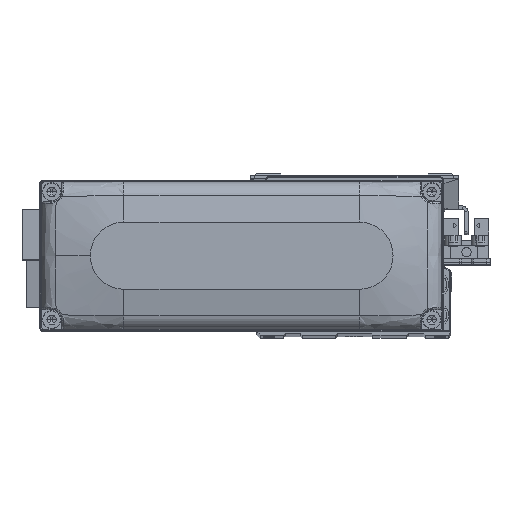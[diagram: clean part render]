
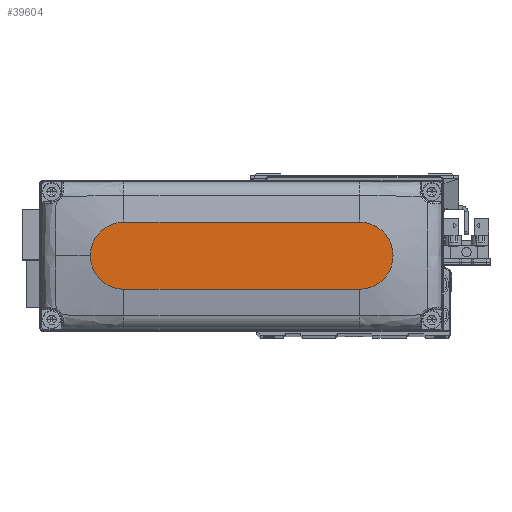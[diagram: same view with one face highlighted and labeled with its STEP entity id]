
A CAD part, top view. The second image highlights one B-rep face of the part: STEP entity #39604.
In plain terms, the highlighted planar face has unit normal (0, 0, 1).
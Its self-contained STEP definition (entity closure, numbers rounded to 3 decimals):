
#1102 = FACE_OUTER_BOUND ( 'NONE', #15856, .T. ) ;
#1172 = AXIS2_PLACEMENT_3D ( 'NONE', #37934, #8295, #21506 ) ;
#3620 = ORIENTED_EDGE ( 'NONE', *, *, #18159, .T. ) ;
#4810 = DIRECTION ( 'NONE',  ( 1., 0., 0. ) ) ;
#4899 = VECTOR ( 'NONE', #26131, 1000. ) ;
#6180 = EDGE_CURVE ( 'NONE', #38924, #40468, #42561, .T. ) ;
#7600 = VECTOR ( 'NONE', #36663, 1000. ) ;
#8295 = DIRECTION ( 'NONE',  ( 0., 0., 1. ) ) ;
#9792 = EDGE_CURVE ( 'NONE', #40468, #32123, #13414, .T. ) ;
#10236 = LINE ( 'NONE', #23462, #7600 ) ;
#11056 = DIRECTION ( 'NONE',  ( 1., 0., 0. ) ) ;
#11259 = ORIENTED_EDGE ( 'NONE', *, *, #40499, .T. ) ;
#12924 = CARTESIAN_POINT ( 'NONE',  ( -35., 10., 28. ) ) ;
#13414 = CIRCLE ( 'NONE', #37594, 10. ) ;
#14315 = PLANE ( 'NONE',  #36367 ) ;
#14987 = CARTESIAN_POINT ( 'NONE',  ( -35., 0., 28. ) ) ;
#15856 = EDGE_LOOP ( 'NONE', ( #16446, #38443, #3620, #16727, #11259 ) ) ;
#16446 = ORIENTED_EDGE ( 'NONE', *, *, #6180, .T. ) ;
#16727 = ORIENTED_EDGE ( 'NONE', *, *, #18344, .T. ) ;
#18003 = AXIS2_PLACEMENT_3D ( 'NONE', #21274, #34483, #4810 ) ;
#18159 = EDGE_CURVE ( 'NONE', #32123, #22278, #10236, .T. ) ;
#18344 = EDGE_CURVE ( 'NONE', #22278, #32803, #31137, .T. ) ;
#19847 = CIRCLE ( 'NONE', #1172, 10. ) ;
#21274 = CARTESIAN_POINT ( 'NONE',  ( 35., 0., 28. ) ) ;
#21506 = DIRECTION ( 'NONE',  ( 1., 0., 0. ) ) ;
#22278 = VERTEX_POINT ( 'NONE', #26707 ) ;
#23462 = CARTESIAN_POINT ( 'NONE',  ( -35., -10., 28. ) ) ;
#24270 = CARTESIAN_POINT ( 'NONE',  ( -35., -10., 28. ) ) ;
#26131 = DIRECTION ( 'NONE',  ( -1., 0., 0. ) ) ;
#26707 = CARTESIAN_POINT ( 'NONE',  ( 35., -10., 28. ) ) ;
#27516 = CARTESIAN_POINT ( 'NONE',  ( 0., 0., 28. ) ) ;
#28194 = DIRECTION ( 'NONE',  ( 0., 0., 1. ) ) ;
#29117 = CARTESIAN_POINT ( 'NONE',  ( 35., 10., 28. ) ) ;
#31137 = CIRCLE ( 'NONE', #18003, 10. ) ;
#32123 = VERTEX_POINT ( 'NONE', #24270 ) ;
#32803 = VERTEX_POINT ( 'NONE', #39736 ) ;
#34483 = DIRECTION ( 'NONE',  ( 0., 0., 1. ) ) ;
#36367 = AXIS2_PLACEMENT_3D ( 'NONE', #27516, #40702, #11056 ) ;
#36663 = DIRECTION ( 'NONE',  ( 1., 0., 0. ) ) ;
#37594 = AXIS2_PLACEMENT_3D ( 'NONE', #14987, #28194, #41373 ) ;
#37730 = CARTESIAN_POINT ( 'NONE',  ( -35., 10., 28. ) ) ;
#37934 = CARTESIAN_POINT ( 'NONE',  ( 35., 0., 28. ) ) ;
#38443 = ORIENTED_EDGE ( 'NONE', *, *, #9792, .T. ) ;
#38924 = VERTEX_POINT ( 'NONE', #29117 ) ;
#39604 = ADVANCED_FACE ( 'NONE', ( #1102 ), #14315, .T. ) ;
#39736 = CARTESIAN_POINT ( 'NONE',  ( 45., 0., 28. ) ) ;
#40468 = VERTEX_POINT ( 'NONE', #37730 ) ;
#40499 = EDGE_CURVE ( 'NONE', #32803, #38924, #19847, .T. ) ;
#40702 = DIRECTION ( 'NONE',  ( 0., 0., 1. ) ) ;
#41373 = DIRECTION ( 'NONE',  ( 1., 0., 0. ) ) ;
#42561 = LINE ( 'NONE', #12924, #4899 ) ;
